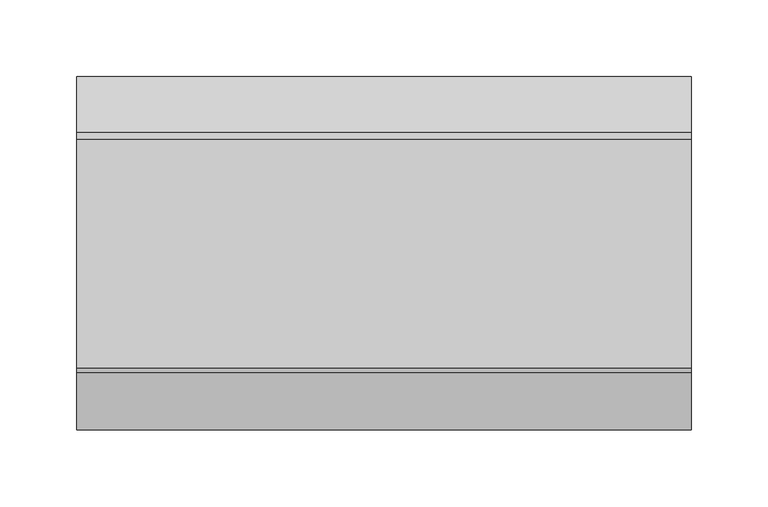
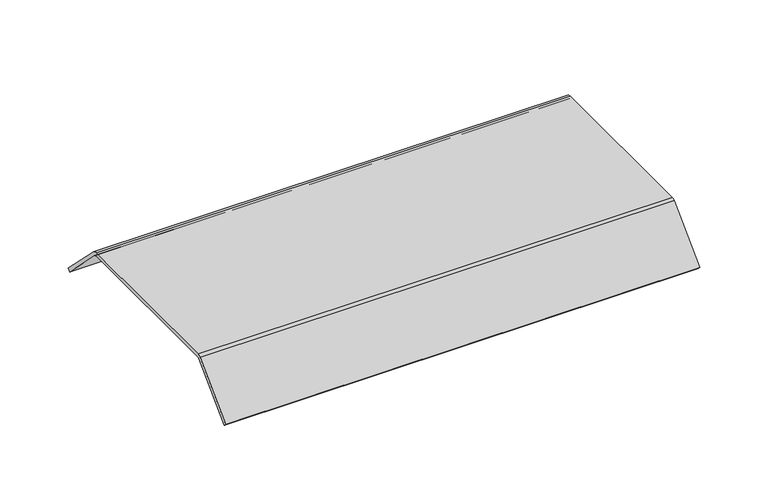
"""IFC4 building model written with IfcOpenShell, lengths in millimetres: proxy geometry, Electrical_Installation_Hager_Blank-Cover-400mm-Double-Sided-Height-40mm : Electrical_Installation_Hager_Blank-Cover-400mm-Double-Sided-Height-40mm."""

from ifc_helpers import new_model, si_unit, point, frame, frame_2d, origin, place, context, project, spatial, polyline, circle_curve, trimmed, segment, composite_curve, outline, extrude, source, transform, mapped, element, save


def electrical_fixtures_7f43b690(model_context):
    return source(origin(), model_context, "Body", "SweptSolid", [
        extrude(outline(composite_curve([segment(trimmed(circle_curve(frame_2d((73.9838855, 19.0468826)), 6.4531174), [point((73.9838855, 25.5))], [point((78.5469286, 23.6099257))], False, "CARTESIAN"), True, "CONTINUOUS"), segment(polyline([(78.5469286, 23.6099257), (115.0386103, -12.8817561), (112.91729, -15.0030764), (76.2293119, 21.6849016)]), True, "CONTINUOUS"), segment(trimmed(circle_curve(frame_2d((74.2614904, 19.7170801)), 2.7829199), [point((76.2293119, 21.6849016))], [point((74.2614904, 22.5))], True, "CARTESIAN"), True, "CONTINUOUS"), segment(polyline([(74.2614904, 22.5), (-74.8229541, 22.5)]), True, "CONTINUOUS"), segment(trimmed(circle_curve(frame_2d((-74.8229541, 21.0725733)), 1.4274267), [point((-74.8229541, 22.5))], [point((-75.8322972, 22.0819164))], True, "CARTESIAN"), True, "CONTINUOUS"), segment(polyline([(-75.8322972, 22.0819164), (-112.91729, -15.0030764), (-115.0386103, -12.8817561), (-77.8206472, 24.336207)]), True, "CONTINUOUS"), segment(trimmed(circle_curve(frame_2d((-75.0110025, 21.5265623)), 3.9734377), [point((-77.8206472, 24.336207))], [point((-75.0110025, 25.5))], False, "CARTESIAN"), True, "CONTINUOUS"), segment(polyline([(-75.0110025, 25.5), (73.9838855, 25.5)]), True, "CONTINUOUS")], self_intersect=False)), frame((0.0, 0.0, 0.0), z_axis=(1.0, 0.0, 0.0), x_axis=(0.0, 1.0, 0.0)), (0.0, 0.0, 1.0), 400.0),
    ])


if __name__ == "__main__":
    model = new_model("IFC4")
    model_context = context("Model", 3, world=origin())
    ifc_project = project(units=[si_unit("LENGTHUNIT", "METRE", prefix="MILLI")], contexts=[model_context])
    site = spatial("IfcSite", under=ifc_project)
    building = spatial("IfcBuilding", under=site)
    placement = place(None, origin())
    electrical_fixtures_shape = electrical_fixtures_7f43b690(model_context)
    element("IfcBuildingElementProxy", 1, Name="Electrical_Installation_Hager_Blank-Cover-400mm-Double-Sided-Height-40mm : Electrical_Installation_Hager_Blank-Cover-400mm-Double-Sided-Height-40mm", ObjectType="Electrical_Installation_Hager_Blank-Cover-400mm-Double-Sided-Height-40mm : Electrical_Installation_Hager_Blank-Cover-400mm-Double-Sided-Height-40mm", at=placement, inside=building, context=model_context, shape_type="MappedRepresentation", body=[
        mapped(electrical_fixtures_shape, transform((0.0, 0.0, 0.0), x_axis=(1.0, 0.0, 0.0), y_axis=(0.0, 1.0, 0.0), z_axis=(0.0, 0.0, 1.0))),
    ])
    save(model, "model.ifc")
